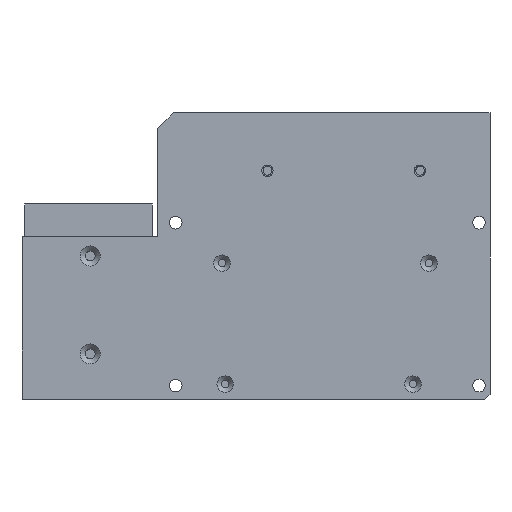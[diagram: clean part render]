
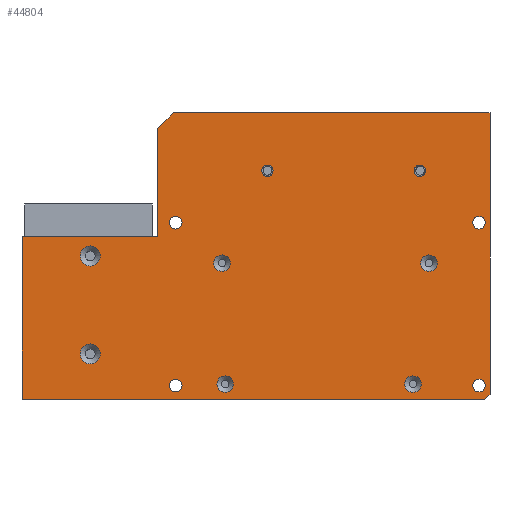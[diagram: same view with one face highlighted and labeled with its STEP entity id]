
A CAD part, front view. The second image highlights one B-rep face of the part: STEP entity #44804.
In plain terms, the highlighted planar face has unit normal (0, -1, 0).
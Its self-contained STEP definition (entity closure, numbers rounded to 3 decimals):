
#43228=CARTESIAN_POINT('',(-141.009,0.,8.747));
#43229=VERTEX_POINT('',#43228);
#43230=CARTESIAN_POINT('',(-145.009,0.,8.747));
#43231=DIRECTION('',(0.0,-1.0,0.0));
#43232=DIRECTION('',(-1.0,0.0,0.0));
#43233=AXIS2_PLACEMENT_3D('',#43230,#43231,#43232);
#43234=CIRCLE('',#43233,4.);
#43235=EDGE_CURVE('',#43229,#43229,#43234,.T.);
#43276=CARTESIAN_POINT('',(-141.009,0.,47.847));
#43277=VERTEX_POINT('',#43276);
#43278=CARTESIAN_POINT('',(-145.009,0.,47.847));
#43279=DIRECTION('',(0.0,-1.0,0.0));
#43280=DIRECTION('',(-1.0,0.0,0.0));
#43281=AXIS2_PLACEMENT_3D('',#43278,#43279,#43280);
#43282=CIRCLE('',#43281,4.);
#43283=EDGE_CURVE('',#43277,#43277,#43282,.T.);
#44140=CARTESIAN_POINT('',(-89.129,0.,44.957));
#44141=VERTEX_POINT('',#44140);
#44142=CARTESIAN_POINT('',(-92.429,0.,44.957));
#44143=DIRECTION('',(0.0,-1.0,0.0));
#44144=DIRECTION('',(-1.0,0.0,0.0));
#44145=AXIS2_PLACEMENT_3D('',#44142,#44143,#44144);
#44146=CIRCLE('',#44145,3.3);
#44147=EDGE_CURVE('',#44141,#44141,#44146,.T.);
#44188=CARTESIAN_POINT('',(-87.859,0.,-3.303));
#44189=VERTEX_POINT('',#44188);
#44190=CARTESIAN_POINT('',(-91.159,0.,-3.303));
#44191=DIRECTION('',(0.0,-1.0,0.0));
#44192=DIRECTION('',(-1.0,0.0,0.0));
#44193=AXIS2_PLACEMENT_3D('',#44190,#44191,#44192);
#44194=CIRCLE('',#44193,3.3);
#44195=EDGE_CURVE('',#44189,#44189,#44194,.T.);
#44216=CARTESIAN_POINT('',(-12.929,0.,-3.303));
#44217=VERTEX_POINT('',#44216);
#44218=CARTESIAN_POINT('',(-16.229,0.,-3.303));
#44219=DIRECTION('',(0.0,-1.0,0.0));
#44220=DIRECTION('',(-1.0,0.0,0.0));
#44221=AXIS2_PLACEMENT_3D('',#44218,#44219,#44220);
#44222=CIRCLE('',#44221,3.3);
#44223=EDGE_CURVE('',#44217,#44217,#44222,.T.);
#44244=CARTESIAN_POINT('',(-6.579,0.,44.957));
#44245=VERTEX_POINT('',#44244);
#44246=CARTESIAN_POINT('',(-9.879,0.,44.957));
#44247=DIRECTION('',(0.0,-1.0,0.0));
#44248=DIRECTION('',(-1.0,0.0,0.0));
#44249=AXIS2_PLACEMENT_3D('',#44246,#44247,#44248);
#44250=CIRCLE('',#44249,3.3);
#44251=EDGE_CURVE('',#44245,#44245,#44250,.T.);
#44443=CARTESIAN_POINT('',(-172.259,0.,-9.303));
#44444=VERTEX_POINT('',#44443);
#44451=CARTESIAN_POINT('',(-172.259,0.,55.597));
#44452=VERTEX_POINT('',#44451);
#44453=CARTESIAN_POINT('',(-172.259,0.,55.597));
#44454=DIRECTION('',(0.0,0.0,-1.0));
#44455=VECTOR('',#44454,64.9);
#44456=LINE('',#44453,#44455);
#44457=EDGE_CURVE('',#44452,#44444,#44456,.T.);
#44492=CARTESIAN_POINT('',(12.617,0.,61.097));
#44493=VERTEX_POINT('',#44492);
#44494=CARTESIAN_POINT('',(10.117,0.,61.097));
#44495=DIRECTION('',(0.0,1.0,0.0));
#44496=DIRECTION('',(-1.0,0.0,0.0));
#44497=AXIS2_PLACEMENT_3D('',#44494,#44495,#44496);
#44498=CIRCLE('',#44497,2.5);
#44499=EDGE_CURVE('',#44493,#44493,#44498,.T.);
#44520=CARTESIAN_POINT('',(-108.383,0.,-3.903));
#44521=VERTEX_POINT('',#44520);
#44522=CARTESIAN_POINT('',(-110.883,0.,-3.903));
#44523=DIRECTION('',(0.0,1.0,0.0));
#44524=DIRECTION('',(-1.0,0.0,0.0));
#44525=AXIS2_PLACEMENT_3D('',#44522,#44523,#44524);
#44526=CIRCLE('',#44525,2.5);
#44527=EDGE_CURVE('',#44521,#44521,#44526,.T.);
#44548=CARTESIAN_POINT('',(12.617,0.,-3.903));
#44549=VERTEX_POINT('',#44548);
#44550=CARTESIAN_POINT('',(10.117,0.,-3.903));
#44551=DIRECTION('',(0.0,1.0,0.0));
#44552=DIRECTION('',(-1.0,0.0,0.0));
#44553=AXIS2_PLACEMENT_3D('',#44550,#44551,#44552);
#44554=CIRCLE('',#44553,2.5);
#44555=EDGE_CURVE('',#44549,#44549,#44554,.T.);
#44576=CARTESIAN_POINT('',(-108.383,0.,61.097));
#44577=VERTEX_POINT('',#44576);
#44578=CARTESIAN_POINT('',(-110.883,0.,61.097));
#44579=DIRECTION('',(0.0,1.0,0.0));
#44580=DIRECTION('',(-1.0,0.0,0.0));
#44581=AXIS2_PLACEMENT_3D('',#44578,#44579,#44580);
#44582=CIRCLE('',#44581,2.5);
#44583=EDGE_CURVE('',#44577,#44577,#44582,.T.);
#44690=CARTESIAN_POINT('',(-53.321,0.0,49.21));
#44691=DIRECTION('',(0.0,-1.0,0.0));
#44692=DIRECTION('',(0.0,0.0,-1.0));
#44693=AXIS2_PLACEMENT_3D('',#44690,#44691,#44692);
#44694=PLANE('',#44693);
#44695=CARTESIAN_POINT('',(-118.159,0.,98.711));
#44696=VERTEX_POINT('',#44695);
#44697=CARTESIAN_POINT('',(-111.883,0.,104.987));
#44698=VERTEX_POINT('',#44697);
#44699=CARTESIAN_POINT('',(-118.159,0.,98.711));
#44700=DIRECTION('',(0.707,0.,0.707));
#44701=VECTOR('',#44700,8.876);
#44702=LINE('',#44699,#44701);
#44703=EDGE_CURVE('',#44696,#44698,#44702,.T.);
#44704=ORIENTED_EDGE('',*,*,#44703,.F.);
#44705=CARTESIAN_POINT('',(-118.159,0.,55.597));
#44706=VERTEX_POINT('',#44705);
#44707=CARTESIAN_POINT('',(-118.159,0.,98.711));
#44708=DIRECTION('',(0.0,0.0,-1.0));
#44709=VECTOR('',#44708,43.114);
#44710=LINE('',#44707,#44709);
#44711=EDGE_CURVE('',#44696,#44706,#44710,.T.);
#44712=ORIENTED_EDGE('',*,*,#44711,.T.);
#44713=CARTESIAN_POINT('',(-118.159,0.,55.597));
#44714=DIRECTION('',(-1.0,0.0,0.0));
#44715=VECTOR('',#44714,54.1);
#44716=LINE('',#44713,#44715);
#44717=EDGE_CURVE('',#44706,#44452,#44716,.T.);
#44718=ORIENTED_EDGE('',*,*,#44717,.T.);
#44719=ORIENTED_EDGE('',*,*,#44457,.T.);
#44720=CARTESIAN_POINT('',(12.517,0.,-9.303));
#44721=VERTEX_POINT('',#44720);
#44722=CARTESIAN_POINT('',(-172.259,0.,-9.303));
#44723=DIRECTION('',(1.0,0.0,0.0));
#44724=VECTOR('',#44723,184.776);
#44725=LINE('',#44722,#44724);
#44726=EDGE_CURVE('',#44444,#44721,#44725,.T.);
#44727=ORIENTED_EDGE('',*,*,#44726,.T.);
#44728=CARTESIAN_POINT('',(14.517,0.,-7.303));
#44729=VERTEX_POINT('',#44728);
#44730=CARTESIAN_POINT('',(12.517,0.,-9.303));
#44731=DIRECTION('',(0.707,0.,0.707));
#44732=VECTOR('',#44731,2.828);
#44733=LINE('',#44730,#44732);
#44734=EDGE_CURVE('',#44721,#44729,#44733,.T.);
#44735=ORIENTED_EDGE('',*,*,#44734,.T.);
#44736=CARTESIAN_POINT('',(14.517,0.,104.987));
#44737=VERTEX_POINT('',#44736);
#44738=CARTESIAN_POINT('',(14.517,0.,104.987));
#44739=DIRECTION('',(0.0,0.0,-1.0));
#44740=VECTOR('',#44739,112.29);
#44741=LINE('',#44738,#44740);
#44742=EDGE_CURVE('',#44737,#44729,#44741,.T.);
#44743=ORIENTED_EDGE('',*,*,#44742,.F.);
#44744=CARTESIAN_POINT('',(-111.883,0.,104.987));
#44745=DIRECTION('',(1.0,0.0,0.0));
#44746=VECTOR('',#44745,126.4);
#44747=LINE('',#44744,#44746);
#44748=EDGE_CURVE('',#44698,#44737,#44747,.T.);
#44749=ORIENTED_EDGE('',*,*,#44748,.F.);
#44750=EDGE_LOOP('',(#44704,#44712,#44718,#44719,#44727,#44735,#44743,#44749));
#44751=FACE_OUTER_BOUND('',#44750,.T.);
#44752=ORIENTED_EDGE('',*,*,#44251,.F.);
#44753=EDGE_LOOP('',(#44752));
#44754=FACE_BOUND('',#44753,.T.);
#44755=ORIENTED_EDGE('',*,*,#44195,.F.);
#44756=EDGE_LOOP('',(#44755));
#44757=FACE_BOUND('',#44756,.T.);
#44758=ORIENTED_EDGE('',*,*,#43283,.F.);
#44759=EDGE_LOOP('',(#44758));
#44760=FACE_BOUND('',#44759,.T.);
#44761=ORIENTED_EDGE('',*,*,#43235,.F.);
#44762=EDGE_LOOP('',(#44761));
#44763=FACE_BOUND('',#44762,.T.);
#44764=ORIENTED_EDGE('',*,*,#44147,.F.);
#44765=EDGE_LOOP('',(#44764));
#44766=FACE_BOUND('',#44765,.T.);
#44767=ORIENTED_EDGE('',*,*,#44223,.F.);
#44768=EDGE_LOOP('',(#44767));
#44769=FACE_BOUND('',#44768,.T.);
#44770=ORIENTED_EDGE('',*,*,#44499,.T.);
#44771=EDGE_LOOP('',(#44770));
#44772=FACE_BOUND('',#44771,.T.);
#44773=ORIENTED_EDGE('',*,*,#44527,.T.);
#44774=EDGE_LOOP('',(#44773));
#44775=FACE_BOUND('',#44774,.T.);
#44776=ORIENTED_EDGE('',*,*,#44555,.T.);
#44777=EDGE_LOOP('',(#44776));
#44778=FACE_BOUND('',#44777,.T.);
#44779=ORIENTED_EDGE('',*,*,#44583,.T.);
#44780=EDGE_LOOP('',(#44779));
#44781=FACE_BOUND('',#44780,.T.);
#44782=CARTESIAN_POINT('',(-72.062,0.,81.847));
#44783=VERTEX_POINT('',#44782);
#44784=CARTESIAN_POINT('',(-74.312,0.0,81.847));
#44785=DIRECTION('',(0.0,1.0,0.0));
#44786=DIRECTION('',(-1.0,0.0,0.0));
#44787=AXIS2_PLACEMENT_3D('',#44784,#44785,#44786);
#44788=CIRCLE('',#44787,2.25);
#44789=EDGE_CURVE('',#44783,#44783,#44788,.T.);
#44790=ORIENTED_EDGE('',*,*,#44789,.T.);
#44791=EDGE_LOOP('',(#44790));
#44792=FACE_BOUND('',#44791,.T.);
#44793=CARTESIAN_POINT('',(-11.267,0.,81.847));
#44794=VERTEX_POINT('',#44793);
#44795=CARTESIAN_POINT('',(-13.517,0.,81.847));
#44796=DIRECTION('',(0.0,1.0,0.0));
#44797=DIRECTION('',(-1.0,0.0,0.0));
#44798=AXIS2_PLACEMENT_3D('',#44795,#44796,#44797);
#44799=CIRCLE('',#44798,2.25);
#44800=EDGE_CURVE('',#44794,#44794,#44799,.T.);
#44801=ORIENTED_EDGE('',*,*,#44800,.T.);
#44802=EDGE_LOOP('',(#44801));
#44803=FACE_BOUND('',#44802,.T.);
#44804=ADVANCED_FACE('',(#44751,#44754,#44757,#44760,#44763,#44766,#44769,#44772,#44775,#44778,#44781,#44792,#44803),#44694,.T.);
